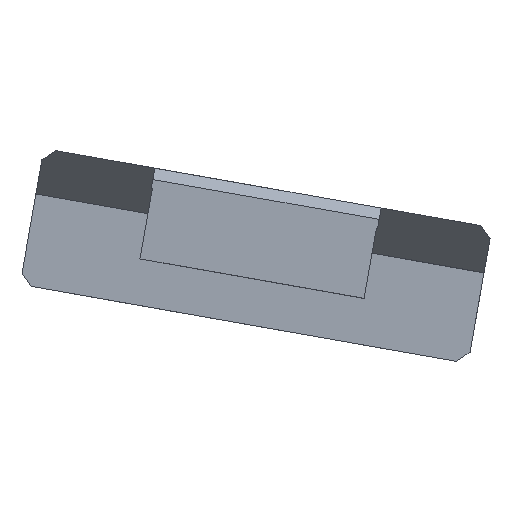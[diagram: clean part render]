
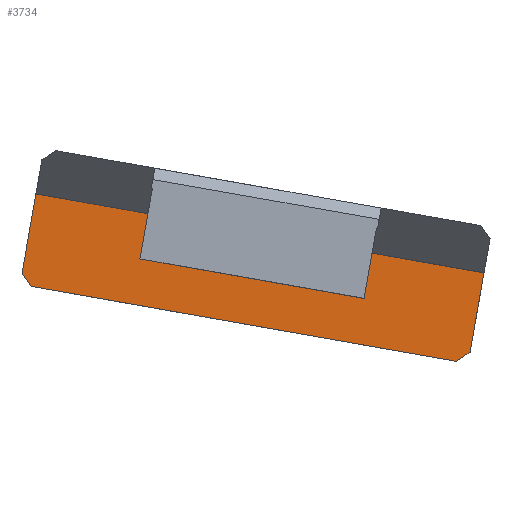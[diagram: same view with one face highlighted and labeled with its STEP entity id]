
A CAD part, left-side view. The second image highlights one B-rep face of the part: STEP entity #3734.
In plain terms, the highlighted planar face has unit normal (-1, 0, 0).
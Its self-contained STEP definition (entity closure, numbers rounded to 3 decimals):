
#193=PLANE('',#4019);
#380=FACE_OUTER_BOUND('',#584,.T.);
#584=EDGE_LOOP('',(#3191,#3192,#3193,#3194,#3195,#3196,#3197,#3198,#3199,
#3200));
#734=LINE('',#5266,#1134);
#740=LINE('',#5278,#1140);
#956=LINE('',#6031,#1356);
#957=LINE('',#6034,#1357);
#960=LINE('',#6040,#1360);
#961=LINE('',#6042,#1361);
#962=LINE('',#6044,#1362);
#963=LINE('',#6046,#1363);
#964=LINE('',#6048,#1364);
#965=LINE('',#6049,#1365);
#1134=VECTOR('',#4272,10.);
#1140=VECTOR('',#4284,10.);
#1356=VECTOR('',#4806,10.);
#1357=VECTOR('',#4809,10.);
#1360=VECTOR('',#4814,10.);
#1361=VECTOR('',#4815,10.);
#1362=VECTOR('',#4816,10.);
#1363=VECTOR('',#4817,10.);
#1364=VECTOR('',#4818,10.);
#1365=VECTOR('',#4819,10.);
#1651=VERTEX_POINT('',#5260);
#1653=VERTEX_POINT('',#5264);
#1656=VERTEX_POINT('',#5277);
#1866=VERTEX_POINT('',#6029);
#1867=VERTEX_POINT('',#6033);
#1869=VERTEX_POINT('',#6039);
#1870=VERTEX_POINT('',#6041);
#1871=VERTEX_POINT('',#6043);
#1872=VERTEX_POINT('',#6045);
#1873=VERTEX_POINT('',#6047);
#2036=EDGE_CURVE('',#1651,#1653,#734,.T.);
#2042=EDGE_CURVE('',#1656,#1651,#740,.T.);
#2352=EDGE_CURVE('',#1866,#1656,#956,.T.);
#2353=EDGE_CURVE('',#1867,#1866,#957,.T.);
#2356=EDGE_CURVE('',#1653,#1869,#960,.T.);
#2357=EDGE_CURVE('',#1869,#1870,#961,.T.);
#2358=EDGE_CURVE('',#1870,#1871,#962,.T.);
#2359=EDGE_CURVE('',#1871,#1872,#963,.T.);
#2360=EDGE_CURVE('',#1872,#1873,#964,.T.);
#2361=EDGE_CURVE('',#1873,#1867,#965,.T.);
#3191=ORIENTED_EDGE('',*,*,#2036,.T.);
#3192=ORIENTED_EDGE('',*,*,#2356,.T.);
#3193=ORIENTED_EDGE('',*,*,#2357,.T.);
#3194=ORIENTED_EDGE('',*,*,#2358,.T.);
#3195=ORIENTED_EDGE('',*,*,#2359,.T.);
#3196=ORIENTED_EDGE('',*,*,#2360,.T.);
#3197=ORIENTED_EDGE('',*,*,#2361,.T.);
#3198=ORIENTED_EDGE('',*,*,#2353,.T.);
#3199=ORIENTED_EDGE('',*,*,#2352,.T.);
#3200=ORIENTED_EDGE('',*,*,#2042,.T.);
#3734=ADVANCED_FACE('',(#380),#193,.F.);
#4019=AXIS2_PLACEMENT_3D('',#6038,#4812,#4813);
#4272=DIRECTION('',(0.,-0.574,-0.819));
#4284=DIRECTION('',(0.,0.174,-0.985));
#4806=DIRECTION('',(0.,0.985,0.174));
#4809=DIRECTION('',(0.,-0.174,0.985));
#4812=DIRECTION('center_axis',(1.,0.,0.));
#4813=DIRECTION('ref_axis',(0.,0.,-1.));
#4814=DIRECTION('',(0.,-0.985,-0.174));
#4815=DIRECTION('',(0.,-0.819,0.574));
#4816=DIRECTION('',(0.,-0.174,0.985));
#4817=DIRECTION('',(0.,0.985,0.174));
#4818=DIRECTION('',(0.,0.174,-0.985));
#4819=DIRECTION('',(0.,0.985,0.174));
#5260=CARTESIAN_POINT('',(70.926,-278.762,-0.231));
#5264=CARTESIAN_POINT('',(70.926,-279.573,-1.39));
#5266=CARTESIAN_POINT('',(70.926,-284.764,-8.804));
#5277=CARTESIAN_POINT('',(70.926,-279.977,6.662));
#5278=CARTESIAN_POINT('',(70.926,-279.63,4.693));
#6029=CARTESIAN_POINT('',(70.926,-289.727,4.943));
#6031=CARTESIAN_POINT('',(70.926,-299.477,3.224));
#6033=CARTESIAN_POINT('',(70.926,-289.032,1.004));
#6034=CARTESIAN_POINT('',(70.926,-290.115,7.141));
#6038=CARTESIAN_POINT('Origin',(70.926,-319.67,3.725));
#6039=CARTESIAN_POINT('',(70.926,-316.602,-7.919));
#6040=CARTESIAN_POINT('',(70.926,-314.337,-7.519));
#6041=CARTESIAN_POINT('',(70.926,-317.76,-7.108));
#6042=CARTESIAN_POINT('',(70.926,-313.184,-10.312));
#6043=CARTESIAN_POINT('',(70.926,-318.976,-0.214));
#6044=CARTESIAN_POINT('',(70.926,-318.629,-2.184));
#6045=CARTESIAN_POINT('',(70.926,-309.226,1.505));
#6046=CARTESIAN_POINT('',(70.926,-318.976,-0.214));
#6047=CARTESIAN_POINT('',(70.926,-308.532,-2.434));
#6048=CARTESIAN_POINT('',(70.926,-309.4,2.49));
#6049=CARTESIAN_POINT('',(70.926,-313.456,-3.302));
